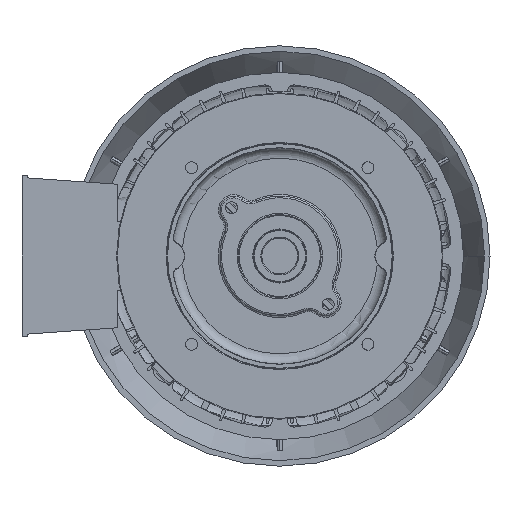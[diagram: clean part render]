
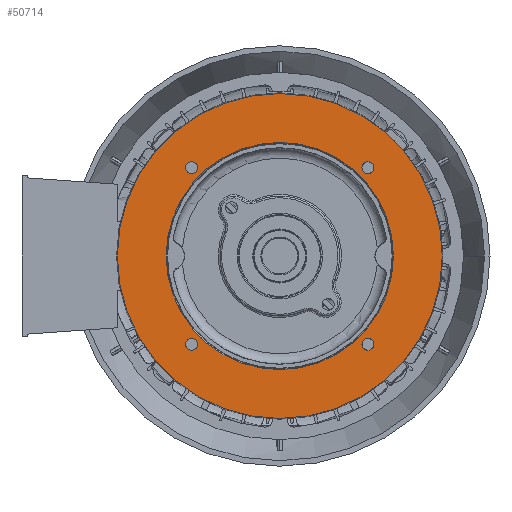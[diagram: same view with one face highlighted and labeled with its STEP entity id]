
A CAD part, front view. The second image highlights one B-rep face of the part: STEP entity #50714.
In plain terms, the highlighted planar face has unit normal (0, -1, 0) as drawn and (0, 0, -1) by its records, which use the part's own axes.
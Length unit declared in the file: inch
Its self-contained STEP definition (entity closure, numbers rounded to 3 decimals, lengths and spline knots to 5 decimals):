
#38439=CARTESIAN_POINT('',(0.,0.,-4.942));
#38440=DIRECTION('',(0.,0.,-1.));
#38441=DIRECTION('',(0.,-1.,0.));
#38442=AXIS2_PLACEMENT_3D('',#38439,#38440,#38441);
#38444=CARTESIAN_POINT('',(0.,0.,-4.942));
#38445=DIRECTION('',(0.,0.,-1.));
#38446=DIRECTION('',(0.,1.,0.));
#38447=AXIS2_PLACEMENT_3D('',#38444,#38445,#38446);
#38449=CARTESIAN_POINT('',(0.,0.,-4.942));
#38450=DIRECTION('',(0.,0.,1.));
#38451=DIRECTION('',(0.,1.,0.));
#38452=AXIS2_PLACEMENT_3D('',#38449,#38450,#38451);
#38454=CARTESIAN_POINT('',(0.,0.,-4.942));
#38455=DIRECTION('',(0.,0.,1.));
#38456=DIRECTION('',(0.,-1.,0.));
#38457=AXIS2_PLACEMENT_3D('',#38454,#38455,#38456);
#38459=CARTESIAN_POINT('',(3.22617,3.22617,-4.942));
#38460=DIRECTION('',(0.,0.,1.));
#38461=DIRECTION('',(1.,0.,0.));
#38462=AXIS2_PLACEMENT_3D('',#38459,#38460,#38461);
#38464=CARTESIAN_POINT('',(3.22617,3.22617,-4.942));
#38465=DIRECTION('',(0.,0.,1.));
#38466=DIRECTION('',(-1.,0.,0.));
#38467=AXIS2_PLACEMENT_3D('',#38464,#38465,#38466);
#38469=CARTESIAN_POINT('',(3.22617,-3.22617,-4.942));
#38470=DIRECTION('',(0.,0.,1.));
#38471=DIRECTION('',(1.,0.,0.));
#38472=AXIS2_PLACEMENT_3D('',#38469,#38470,#38471);
#38474=CARTESIAN_POINT('',(3.22617,-3.22617,-4.942));
#38475=DIRECTION('',(0.,0.,1.));
#38476=DIRECTION('',(-1.,0.,0.));
#38477=AXIS2_PLACEMENT_3D('',#38474,#38475,#38476);
#38479=CARTESIAN_POINT('',(-3.22617,-3.22617,-4.942));
#38480=DIRECTION('',(0.,0.,1.));
#38481=DIRECTION('',(1.,0.,0.));
#38482=AXIS2_PLACEMENT_3D('',#38479,#38480,#38481);
#38484=CARTESIAN_POINT('',(-3.22617,-3.22617,-4.942));
#38485=DIRECTION('',(0.,0.,1.));
#38486=DIRECTION('',(-1.,0.,0.));
#38487=AXIS2_PLACEMENT_3D('',#38484,#38485,#38486);
#38489=CARTESIAN_POINT('',(-3.22617,3.22617,-4.942));
#38490=DIRECTION('',(0.,0.,1.));
#38491=DIRECTION('',(1.,0.,0.));
#38492=AXIS2_PLACEMENT_3D('',#38489,#38490,#38491);
#38494=CARTESIAN_POINT('',(-3.22617,3.22617,-4.942));
#38495=DIRECTION('',(0.,0.,1.));
#38496=DIRECTION('',(-1.,0.,0.));
#38497=AXIS2_PLACEMENT_3D('',#38494,#38495,#38496);
#43582=CARTESIAN_POINT('',(0.,-5.94309,-4.942));
#43583=CARTESIAN_POINT('',(0.,5.94309,-4.942));
#43584=VERTEX_POINT('',#43582);
#43585=VERTEX_POINT('',#43583);
#43626=CARTESIAN_POINT('',(0.,4.156,-4.942));
#43627=CARTESIAN_POINT('',(0.,-4.156,-4.942));
#43628=VERTEX_POINT('',#43626);
#43629=VERTEX_POINT('',#43627);
#43694=CARTESIAN_POINT('',(3.44517,3.22617,-4.942));
#43695=CARTESIAN_POINT('',(3.00717,3.22617,-4.942));
#43696=VERTEX_POINT('',#43694);
#43697=VERTEX_POINT('',#43695);
#43702=CARTESIAN_POINT('',(3.44517,-3.22617,-4.942));
#43703=CARTESIAN_POINT('',(3.00717,-3.22617,-4.942));
#43704=VERTEX_POINT('',#43702);
#43705=VERTEX_POINT('',#43703);
#43710=CARTESIAN_POINT('',(-3.00717,-3.22617,-4.942));
#43711=CARTESIAN_POINT('',(-3.44517,-3.22617,-4.942));
#43712=VERTEX_POINT('',#43710);
#43713=VERTEX_POINT('',#43711);
#43718=CARTESIAN_POINT('',(-3.00717,3.22617,-4.942));
#43719=CARTESIAN_POINT('',(-3.44517,3.22617,-4.942));
#43720=VERTEX_POINT('',#43718);
#43721=VERTEX_POINT('',#43719);
#50674=CARTESIAN_POINT('',(0.,0.,-4.942));
#50675=DIRECTION('',(0.,0.,1.));
#50676=DIRECTION('',(0.,1.,0.));
#50677=AXIS2_PLACEMENT_3D('',#50674,#50675,#50676);
#50678=PLANE('',#50677);
#50680=ORIENTED_EDGE('',*,*,#50679,.F.);
#50681=ORIENTED_EDGE('',*,*,#50664,.F.);
#50682=EDGE_LOOP('',(#50680,#50681));
#50683=FACE_OUTER_BOUND('',#50682,.F.);
#50685=ORIENTED_EDGE('',*,*,#50684,.F.);
#50687=ORIENTED_EDGE('',*,*,#50686,.F.);
#50688=EDGE_LOOP('',(#50685,#50687));
#50689=FACE_BOUND('',#50688,.F.);
#50691=ORIENTED_EDGE('',*,*,#50690,.F.);
#50693=ORIENTED_EDGE('',*,*,#50692,.F.);
#50694=EDGE_LOOP('',(#50691,#50693));
#50695=FACE_BOUND('',#50694,.F.);
#50697=ORIENTED_EDGE('',*,*,#50696,.F.);
#50699=ORIENTED_EDGE('',*,*,#50698,.F.);
#50700=EDGE_LOOP('',(#50697,#50699));
#50701=FACE_BOUND('',#50700,.F.);
#50703=ORIENTED_EDGE('',*,*,#50702,.F.);
#50705=ORIENTED_EDGE('',*,*,#50704,.F.);
#50706=EDGE_LOOP('',(#50703,#50705));
#50707=FACE_BOUND('',#50706,.F.);
#50709=ORIENTED_EDGE('',*,*,#50708,.F.);
#50711=ORIENTED_EDGE('',*,*,#50710,.F.);
#50712=EDGE_LOOP('',(#50709,#50711));
#50713=FACE_BOUND('',#50712,.F.);
#50714=ADVANCED_FACE('',(#50683,#50689,#50695,#50701,#50707,#50713),#50678,.F.);
#38443=CIRCLE('',#38442,5.94309);
#38448=CIRCLE('',#38447,5.94309);
#38453=CIRCLE('',#38452,4.156);
#38458=CIRCLE('',#38457,4.156);
#38463=CIRCLE('',#38462,0.219);
#38468=CIRCLE('',#38467,0.219);
#38473=CIRCLE('',#38472,0.219);
#38478=CIRCLE('',#38477,0.219);
#38483=CIRCLE('',#38482,0.219);
#38488=CIRCLE('',#38487,0.219);
#38493=CIRCLE('',#38492,0.219);
#38498=CIRCLE('',#38497,0.219);
#50664=EDGE_CURVE('',#43585,#43584,#38448,.T.);
#50679=EDGE_CURVE('',#43584,#43585,#38443,.T.);
#50684=EDGE_CURVE('',#43628,#43629,#38453,.T.);
#50686=EDGE_CURVE('',#43629,#43628,#38458,.T.);
#50690=EDGE_CURVE('',#43696,#43697,#38463,.T.);
#50692=EDGE_CURVE('',#43697,#43696,#38468,.T.);
#50696=EDGE_CURVE('',#43704,#43705,#38473,.T.);
#50698=EDGE_CURVE('',#43705,#43704,#38478,.T.);
#50702=EDGE_CURVE('',#43712,#43713,#38483,.T.);
#50704=EDGE_CURVE('',#43713,#43712,#38488,.T.);
#50708=EDGE_CURVE('',#43720,#43721,#38493,.T.);
#50710=EDGE_CURVE('',#43721,#43720,#38498,.T.);
